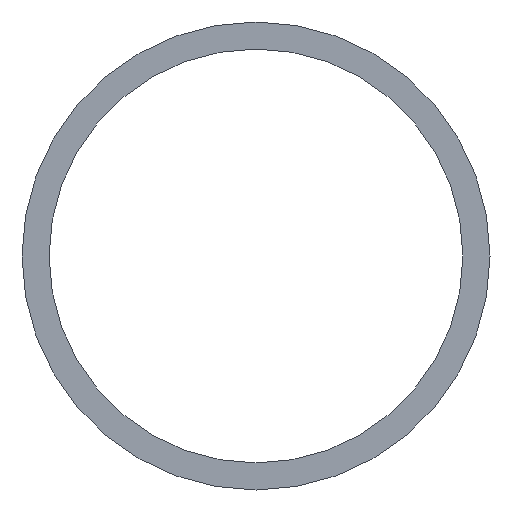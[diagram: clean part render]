
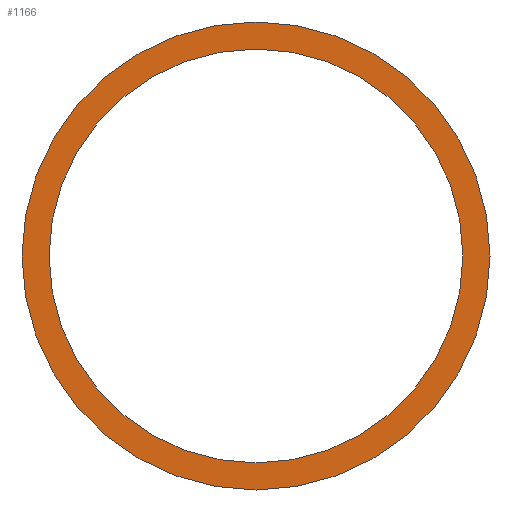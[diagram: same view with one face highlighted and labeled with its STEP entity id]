
A CAD part, front view. The second image highlights one B-rep face of the part: STEP entity #1166.
In plain terms, the highlighted planar face has unit normal (0, -1, 0).
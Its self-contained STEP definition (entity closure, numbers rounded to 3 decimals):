
#11 = CARTESIAN_POINT ( 'NONE',  ( 0., 0., 0. ) ) ;
#34 = EDGE_CURVE ( 'NONE', #495, #50, #438, .T. ) ;
#50 = VERTEX_POINT ( 'NONE', #202 ) ;
#136 = CIRCLE ( 'NONE', #397, 199. ) ;
#188 = AXIS2_PLACEMENT_3D ( 'NONE', #195, #1115, #465 ) ;
#195 = CARTESIAN_POINT ( 'NONE',  ( 0., 0., 225. ) ) ;
#202 = CARTESIAN_POINT ( 'NONE',  ( 0., 0., 225. ) ) ;
#220 = DIRECTION ( 'NONE',  ( 0., -1., 0. ) ) ;
#222 = DIRECTION ( 'NONE',  ( 0., -1., 0. ) ) ;
#243 = CARTESIAN_POINT ( 'NONE',  ( 0., 0., 0. ) ) ;
#273 = EDGE_CURVE ( 'NONE', #50, #495, #459, .T. ) ;
#299 = DIRECTION ( 'NONE',  ( 0., -1., 0. ) ) ;
#323 = VERTEX_POINT ( 'NONE', #665 ) ;
#350 = VERTEX_POINT ( 'NONE', #645 ) ;
#376 = CIRCLE ( 'NONE', #745, 199. ) ;
#386 = EDGE_LOOP ( 'NONE', ( #584, #1141 ) ) ;
#387 = CARTESIAN_POINT ( 'NONE',  ( 0., 0., 0. ) ) ;
#397 = AXIS2_PLACEMENT_3D ( 'NONE', #11, #1041, #753 ) ;
#438 = CIRCLE ( 'NONE', #996, 225. ) ;
#440 = AXIS2_PLACEMENT_3D ( 'NONE', #387, #220, #1126 ) ;
#459 = CIRCLE ( 'NONE', #440, 225. ) ;
#465 = DIRECTION ( 'NONE',  ( 0., 0., 1. ) ) ;
#470 = CARTESIAN_POINT ( 'NONE',  ( 0., 0., 0. ) ) ;
#495 = VERTEX_POINT ( 'NONE', #1047 ) ;
#502 = ORIENTED_EDGE ( 'NONE', *, *, #273, .T. ) ;
#511 = ORIENTED_EDGE ( 'NONE', *, *, #34, .T. ) ;
#547 = DIRECTION ( 'NONE',  ( 0., 0., -1. ) ) ;
#584 = ORIENTED_EDGE ( 'NONE', *, *, #1012, .F. ) ;
#645 = CARTESIAN_POINT ( 'NONE',  ( 0., 0., 199. ) ) ;
#665 = CARTESIAN_POINT ( 'NONE',  ( 0., 0., -199. ) ) ;
#745 = AXIS2_PLACEMENT_3D ( 'NONE', #243, #222, #786 ) ;
#753 = DIRECTION ( 'NONE',  ( 0., 0., -1. ) ) ;
#786 = DIRECTION ( 'NONE',  ( 0., 0., -1. ) ) ;
#847 = PLANE ( 'NONE',  #188 ) ;
#890 = EDGE_CURVE ( 'NONE', #350, #323, #136, .T. ) ;
#942 = EDGE_LOOP ( 'NONE', ( #511, #502 ) ) ;
#996 = AXIS2_PLACEMENT_3D ( 'NONE', #470, #299, #547 ) ;
#1012 = EDGE_CURVE ( 'NONE', #323, #350, #376, .T. ) ;
#1041 = DIRECTION ( 'NONE',  ( 0., -1., 0. ) ) ;
#1047 = CARTESIAN_POINT ( 'NONE',  ( 0., 0., -225. ) ) ;
#1110 = FACE_BOUND ( 'NONE', #386, .T. ) ;
#1115 = DIRECTION ( 'NONE',  ( 0., 1., 0. ) ) ;
#1123 = FACE_OUTER_BOUND ( 'NONE', #942, .T. ) ;
#1126 = DIRECTION ( 'NONE',  ( 0., 0., -1. ) ) ;
#1141 = ORIENTED_EDGE ( 'NONE', *, *, #890, .F. ) ;
#1166 = ADVANCED_FACE ( 'NONE', ( #1110, #1123 ), #847, .F. ) ;
